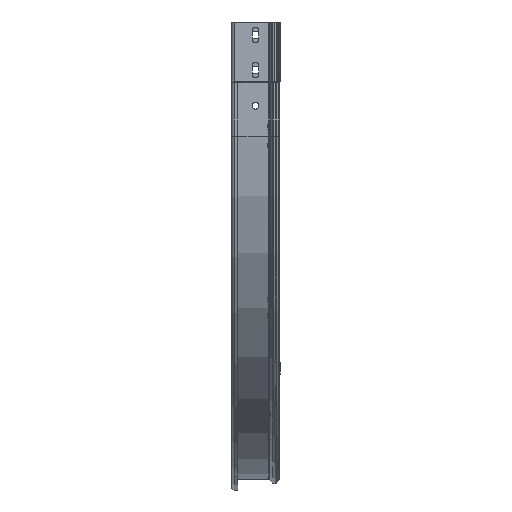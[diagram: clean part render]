
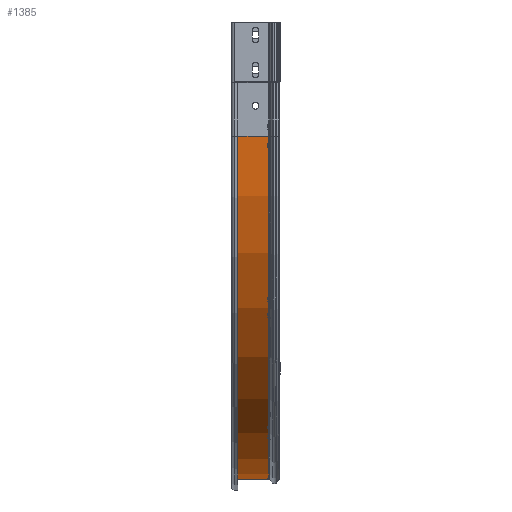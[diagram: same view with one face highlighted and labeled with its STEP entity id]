
A CAD part, left-side view. The second image highlights one B-rep face of the part: STEP entity #1385.
In plain terms, the highlighted cylindrical face has radius 451.2 mm (diameter 902.4 mm), a partial arc.
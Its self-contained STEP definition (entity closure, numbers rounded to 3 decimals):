
#241 = EDGE_CURVE ( 'NONE', #755, #3585, #4435, .T. ) ;
#256 = CYLINDRICAL_SURFACE ( 'NONE', #8169, 451.2 ) ;
#311 = FACE_OUTER_BOUND ( 'NONE', #7653, .T. ) ;
#469 = VERTEX_POINT ( 'NONE', #4622 ) ;
#488 = VECTOR ( 'NONE', #2268, 1000. ) ;
#661 = VERTEX_POINT ( 'NONE', #8759 ) ;
#755 = VERTEX_POINT ( 'NONE', #10840 ) ;
#800 = VECTOR ( 'NONE', #5236, 1000. ) ;
#977 = DIRECTION ( 'NONE',  ( 0., 1., 0. ) ) ;
#1278 = CIRCLE ( 'NONE', #7438, 451.2 ) ;
#1385 = ADVANCED_FACE ( 'NONE', ( #311 ), #256, .T. ) ;
#1875 = CARTESIAN_POINT ( 'NONE',  ( -1.2, 14.319, -150. ) ) ;
#2058 = EDGE_CURVE ( 'NONE', #755, #469, #7395, .T. ) ;
#2268 = DIRECTION ( 'NONE',  ( 0., 1., 0. ) ) ;
#2270 = DIRECTION ( 'NONE',  ( 0., 1., 0. ) ) ;
#3061 = ORIENTED_EDGE ( 'NONE', *, *, #10890, .F. ) ;
#3298 = ORIENTED_EDGE ( 'NONE', *, *, #4996, .F. ) ;
#3585 = VERTEX_POINT ( 'NONE', #10087 ) ;
#3667 = DIRECTION ( 'NONE',  ( 0., 0., 1. ) ) ;
#4088 = CARTESIAN_POINT ( 'NONE',  ( 450., 14.319, -150. ) ) ;
#4276 = DIRECTION ( 'NONE',  ( 0., 0., 1. ) ) ;
#4435 = CIRCLE ( 'NONE', #9542, 451.2 ) ;
#4593 = CARTESIAN_POINT ( 'NONE',  ( 450., 0., -150. ) ) ;
#4622 = CARTESIAN_POINT ( 'NONE',  ( 450., 59., -601.2 ) ) ;
#4996 = EDGE_CURVE ( 'NONE', #661, #3585, #10299, .T. ) ;
#5236 = DIRECTION ( 'NONE',  ( 0., -1., 0. ) ) ;
#5600 = ORIENTED_EDGE ( 'NONE', *, *, #2058, .F. ) ;
#5622 = DIRECTION ( 'NONE',  ( 0., 0., 1. ) ) ;
#7395 = LINE ( 'NONE', #9815, #488 ) ;
#7438 = AXIS2_PLACEMENT_3D ( 'NONE', #9457, #977, #4276 ) ;
#7653 = EDGE_LOOP ( 'NONE', ( #3061, #5600, #8703, #3298 ) ) ;
#7963 = DIRECTION ( 'NONE',  ( 0., 1., 0. ) ) ;
#8169 = AXIS2_PLACEMENT_3D ( 'NONE', #4593, #7963, #3667 ) ;
#8703 = ORIENTED_EDGE ( 'NONE', *, *, #241, .T. ) ;
#8759 = CARTESIAN_POINT ( 'NONE',  ( -1.2, 59., -150. ) ) ;
#9457 = CARTESIAN_POINT ( 'NONE',  ( 450., 59., -150. ) ) ;
#9542 = AXIS2_PLACEMENT_3D ( 'NONE', #4088, #2270, #5622 ) ;
#9815 = CARTESIAN_POINT ( 'NONE',  ( 450., 14.319, -601.2 ) ) ;
#10087 = CARTESIAN_POINT ( 'NONE',  ( -1.2, 14.319, -150. ) ) ;
#10299 = LINE ( 'NONE', #1875, #800 ) ;
#10840 = CARTESIAN_POINT ( 'NONE',  ( 450., 14.319, -601.2 ) ) ;
#10890 = EDGE_CURVE ( 'NONE', #469, #661, #1278, .T. ) ;
